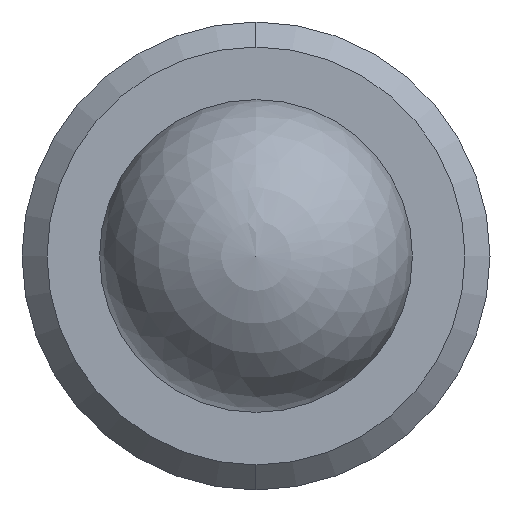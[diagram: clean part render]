
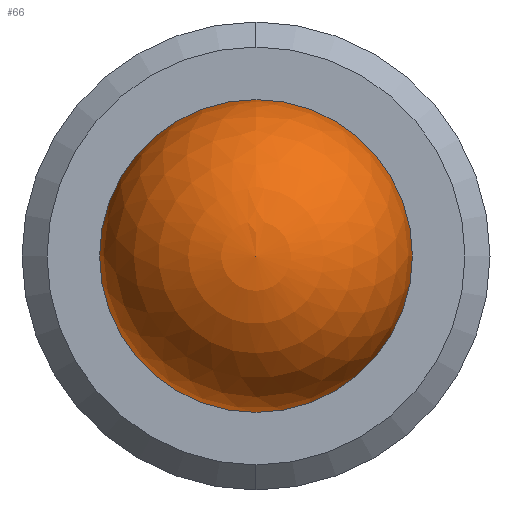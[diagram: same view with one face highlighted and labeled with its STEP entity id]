
A CAD part, left-side view. The second image highlights one B-rep face of the part: STEP entity #66.
In plain terms, the highlighted spherical face has radius 1.587 mm.
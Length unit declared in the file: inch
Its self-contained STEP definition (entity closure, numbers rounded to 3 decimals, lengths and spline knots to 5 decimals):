
#7 = DIRECTION ( 'NONE',  ( 1., 0., 0. ) ) ;
#10 = EDGE_CURVE ( 'NONE', #599, #305, #99, .T. ) ;
#21 = DIRECTION ( 'NONE',  ( -1., 0., 0. ) ) ;
#62 = DIRECTION ( 'NONE',  ( 0., 0., 1. ) ) ;
#66 = ADVANCED_FACE ( 'NONE', ( #91 ), #84, .T. ) ;
#84 = SPHERICAL_SURFACE ( 'NONE', #344, 0.0625 ) ;
#91 = FACE_OUTER_BOUND ( 'NONE', #135, .T. ) ;
#99 = CIRCLE ( 'NONE', #367, 0.0625 ) ;
#123 = ORIENTED_EDGE ( 'NONE', *, *, #10, .T. ) ;
#135 = EDGE_LOOP ( 'NONE', ( #205, #123 ) ) ;
#190 = EDGE_CURVE ( 'NONE', #599, #305, #490, .T. ) ;
#205 = ORIENTED_EDGE ( 'NONE', *, *, #190, .F. ) ;
#209 = CARTESIAN_POINT ( 'NONE',  ( 0., 0., 0. ) ) ;
#271 = AXIS2_PLACEMENT_3D ( 'NONE', #352, #7, #393 ) ;
#286 = DIRECTION ( 'NONE',  ( 0., 0., 1. ) ) ;
#305 = VERTEX_POINT ( 'NONE', #604 ) ;
#344 = AXIS2_PLACEMENT_3D ( 'NONE', #451, #21, #286 ) ;
#352 = CARTESIAN_POINT ( 'NONE',  ( 0., 0., 0. ) ) ;
#367 = AXIS2_PLACEMENT_3D ( 'NONE', #209, #466, #62 ) ;
#393 = DIRECTION ( 'NONE',  ( 0., 0., -1. ) ) ;
#451 = CARTESIAN_POINT ( 'NONE',  ( 0., 0., 0. ) ) ;
#466 = DIRECTION ( 'NONE',  ( -1., 0., 0. ) ) ;
#490 = CIRCLE ( 'NONE', #271, 0.0625 ) ;
#599 = VERTEX_POINT ( 'NONE', #608 ) ;
#604 = CARTESIAN_POINT ( 'NONE',  ( 0., -0.0625, 0. ) ) ;
#608 = CARTESIAN_POINT ( 'NONE',  ( 0., 0.0625, 0. ) ) ;
